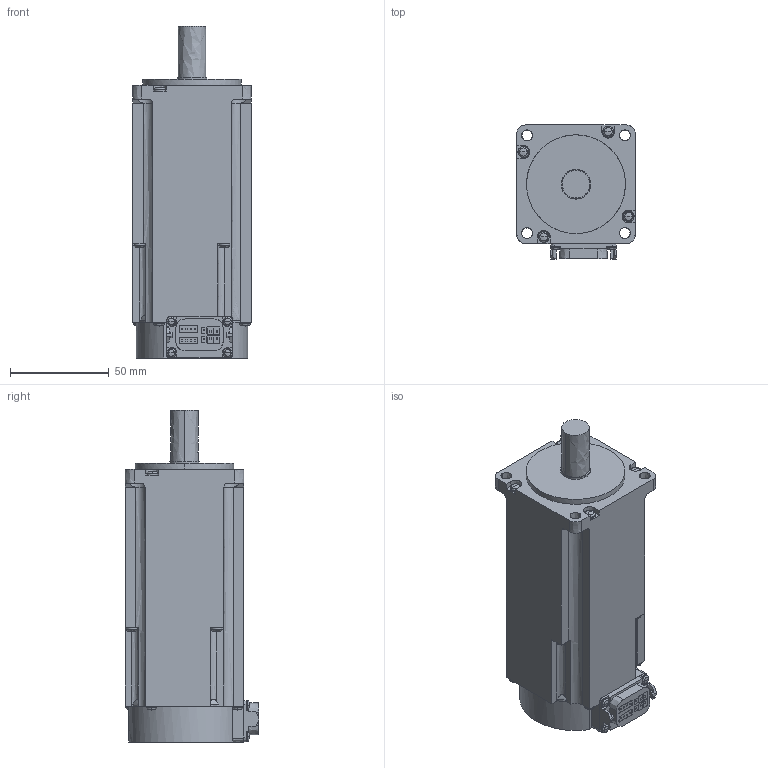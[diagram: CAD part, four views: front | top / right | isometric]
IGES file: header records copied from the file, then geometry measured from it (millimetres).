
Start section:  PTC IGES file: hk-kt63wb_-_asm.igs
Global section: file name: hk-kt63wb_-_asm.igs; native system: Creo Parametric by PTC Inc.; preprocessor: 2016380; author: XE90682; organization: Unknown; date: 20190116.104558; units: millimetre
Bounding box: 60 x 67.65 x 168.1 mm (x, y, z)
Volume: 441219.3 mm3; surface area: 41528.1 mm2
Topology: 1 solids, 1 shells, 401 faces, 1042 edges, 654 vertices
Faces by surface type: bspline 401
